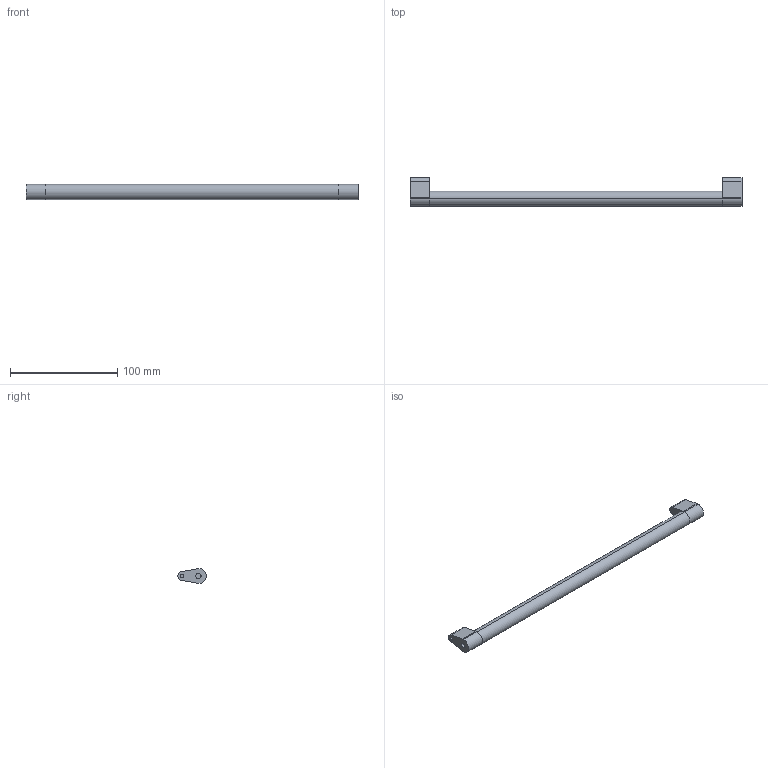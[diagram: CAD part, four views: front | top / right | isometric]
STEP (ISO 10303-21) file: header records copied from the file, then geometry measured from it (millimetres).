
FILE_DESCRIPTION (( 'STEP AP214' ), '1' );
FILE_NAME ('_Synchronisationseinheit Nova Pro KAB400_S19.step', '2010-07-08T13:58:41', ( 'grass' ), ( '' ), 'SwSTEP 2.0', 'SolidWorks 2010', '' );
FILE_SCHEMA (( 'AUTOMOTIVE_DESIGN' ));
Length unit declared in the file: millimetre
Products named in the file (1): _Synchronisationseinheit Nova Pro KAB400_S19
Bounding box: 309 x 26.5 x 14 mm (x, y, z)
Volume: 51253.7 mm3; surface area: 16437.5 mm2
Topology: 3 solids, 3 shells, 36 faces, 78 edges, 52 vertices
Faces by surface type: cylinder 18, plane 18
Entity records: 1050 total; most frequent: DIRECTION 188, CARTESIAN_POINT 167, ORIENTED_EDGE 156, EDGE_CURVE 78, AXIS2_PLACEMENT_3D 73, VERTEX_POINT 52, VECTOR 42, LINE 42
